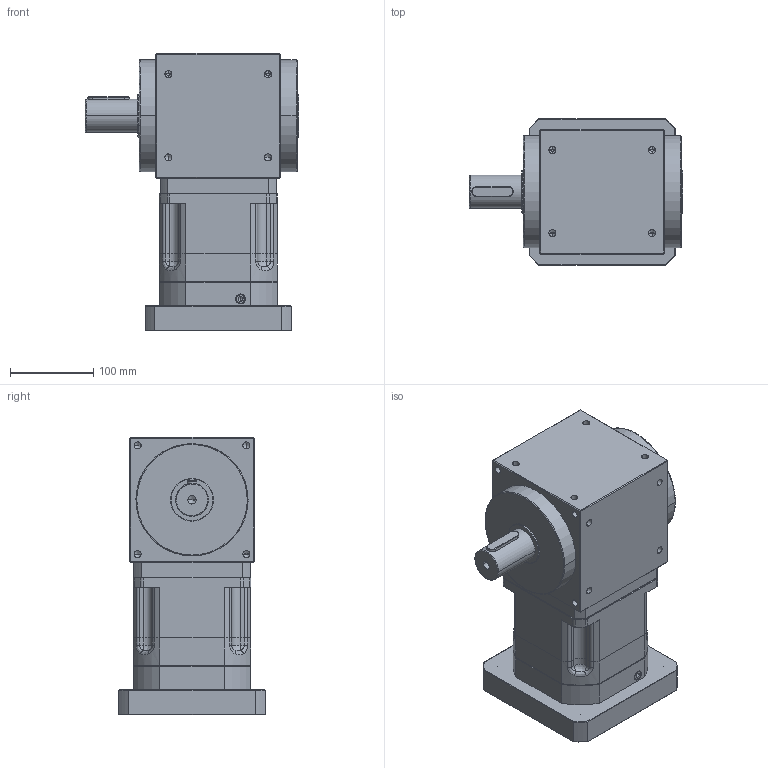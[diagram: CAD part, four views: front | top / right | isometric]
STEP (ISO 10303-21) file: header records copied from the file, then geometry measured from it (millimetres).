
FILE_DESCRIPTION (( 'STEP AP214' ), '1' );
FILE_NAME ('PAW150A-L1-P(3-10) 35-114.3-200-M12.STEP', '2021-04-24T08:25:18', ( 'Microsoft' ), ( 'Microsoft China' ), 'SwSTEP 2.0', 'SolidWorks 2016', '' );
FILE_SCHEMA (( 'AUTOMOTIVE_DESIGN' ));
Length unit declared in the file: millimetre
Products named in the file (27): 俴陎謫菜え13.6X27; 俴陎謫5; Hex socket set screws with flat point GB_GB_FASTENER_SCREWS_HSFP M12X16-N; Spring lock washers--Normal type GB_GB_FASTENER_WASHER_SW 8; Hexagon socket head cap screws GB_GB_FASTENER_SCREWS_HSHCS M8X35-N; Hexagon socket head cap screws GB_GB_FASTENER_SCREWS_HSHCS M10X30-N; Plain parallel keys_GB_CONNECTING_PIECE_KEYS_CSK C6X18; Circlips for hole--Type B GB_GB_CONNECTING_PIECE_RINGS_CHB 80; Spring lock washers--Normal type GB_GB_FASTENER_WASHER_SW 10; Hexagon socket head cap screws GB_GB_FASTENER_SCREWS_HSHCS M10X35-N; 薊粣ん菜え35; Circlips for shaft--Type A large GB_GB_CONNECTING_PIECE_RING_RRA 55; PAW150A-L1-2P--35-114.3-200-M12; Deep groove ball bearings GB_Rolling bearings 61821 GB 276-94; Deep groove ball bearings GB_Rolling bearings 6212 GB 276-94; 怮栠謫5; 怀堤粣5; 一级齿圈Z108; Circlips for hole--Type B GB_GB_CONNECTING_PIECE_RINGS_CHB 110; PAW150A-L1-P(3-10) 35-114.3-200-M12; 蚐猾60X110X12; 幗渀粣創13.513X18.513; 薊粣ん35; 笢潔楊擘; 萇儂楊擘D114.3M12; 俴陎粣13.513; Deep groove ball bearings GB_Rolling bearings 6011 GB 276-94
Assembly tree (54 placements, depth 2):
  PAW150A-L1-P(3-10) 35-114.3-200-M12
    一级齿圈Z108
    怀堤粣5
    Deep groove ball bearings GB_Rolling bearings 6212 GB 276-94
    Deep groove ball bearings GB_Rolling bearings 61821 GB 276-94
    Deep groove ball bearings GB_Rolling bearings 6011 GB 276-94
    萇儂楊擘D114.3M12
    笢潔楊擘
    薊粣ん35
    蚐猾60X110X12
    Circlips for hole--Type B GB_GB_CONNECTING_PIECE_RINGS_CHB 110
    怮栠謫5
    俴陎粣13.513  x3
    幗渀粣創13.513X18.513  x3
    俴陎謫菜え13.6X27  x6
    俴陎謫5  x3
    Hex socket set screws with flat point GB_GB_FASTENER_SCREWS_HSFP M12X16-N  x2
    Spring lock washers--Normal type GB_GB_FASTENER_WASHER_SW 8  x4
    Hexagon socket head cap screws GB_GB_FASTENER_SCREWS_HSHCS M8X35-N  x4
    Hexagon socket head cap screws GB_GB_FASTENER_SCREWS_HSHCS M10X30-N
    Plain parallel keys_GB_CONNECTING_PIECE_KEYS_CSK C6X18
    Circlips for hole--Type B GB_GB_CONNECTING_PIECE_RINGS_CHB 80
    Spring lock washers--Normal type GB_GB_FASTENER_WASHER_SW 10  x6
    Hexagon socket head cap screws GB_GB_FASTENER_SCREWS_HSHCS M10X35-N  x6
    薊粣ん菜え35
    Circlips for shaft--Type A large GB_GB_CONNECTING_PIECE_RING_RRA 55
    PAW150A-L1-2P--35-114.3-200-M12
Bounding box: 257 x 176 x 333.5 mm (x, y, z)
Volume: 7271556.1 mm3; surface area: 787917.3 mm2
Topology: 54 solids, 54 shells, 2069 faces, 6442 edges, 4005 vertices
Faces by surface type: cylinder 659, plane 524, bspline 497, cone 279, sphere 110
Entity records: 94850 total; most frequent: CARTESIAN_POINT 33075, ORIENTED_EDGE 10092, DIRECTION 7673, EDGE_CURVE 5046, VERTEX_POINT 3308, AXIS2_PLACEMENT_3D 3242, CIRCLE 1977, EDGE_LOOP 1872
